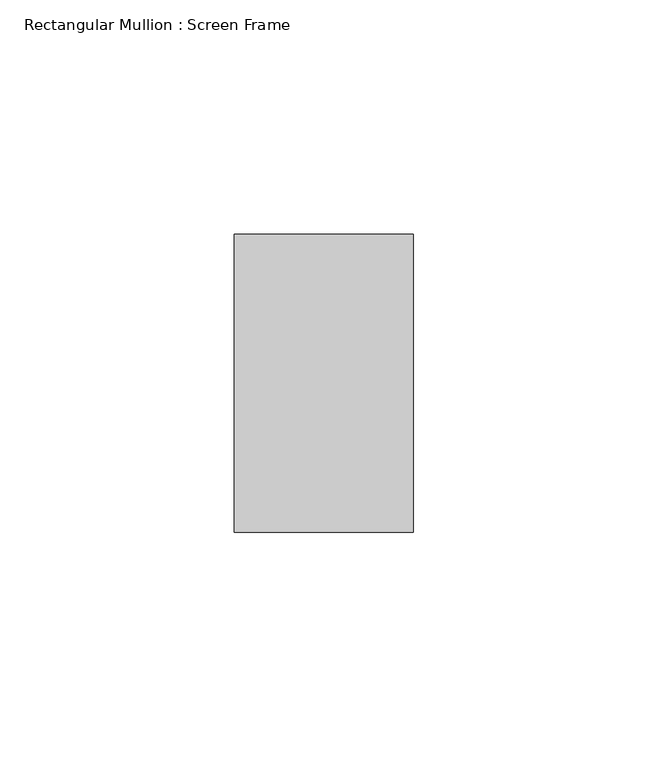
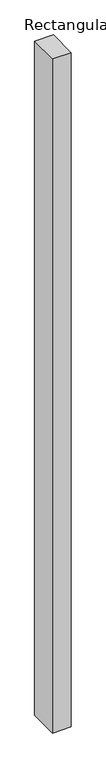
"""IFC4 building model written with IfcOpenShell, lengths in millimetres: member geometry, Rectangular Mullion : Screen Frame."""

from ifc_helpers import new_model, si_unit, frame, origin, place, context, project, spatial, polyline, outline, extrude, source, transform, mapped, element, save


def rectangular_mullion_screen_frame_f99cffb0(model_context):
    return source(origin(), model_context, "Body", "SweptSolid", [
        extrude(outline(polyline([(19.05, 31.75), (19.05, -31.75), (-19.05, -31.75), (-19.05, 31.75), (19.05, 31.75)])), frame((0.0, 0.0, -1460.5), z_axis=(0.0, 0.0, 1.0), x_axis=(1.0, 0.0, 0.0)), (0.0, 0.0, 1.0), 1460.5),
    ])


if __name__ == "__main__":
    model = new_model("IFC4")
    model_context = context("Model", 3, world=origin())
    ifc_project = project(units=[si_unit("LENGTHUNIT", "METRE", prefix="MILLI")], contexts=[model_context])
    site = spatial("IfcSite", under=ifc_project)
    building = spatial("IfcBuilding", under=site)
    placement = place(None, origin())
    rectangular_mullion_screen_frame_shape = rectangular_mullion_screen_frame_f99cffb0(model_context)
    element("IfcMember", 1, ObjectType="Rectangular Mullion : Screen Frame", at=placement, inside=building, context=model_context, shape_type="MappedRepresentation", body=[
        mapped(rectangular_mullion_screen_frame_shape, transform((0.0, 0.0, 0.0), x_axis=(1.0, 0.0, 0.0), y_axis=(0.0, 1.0, 0.0), z_axis=(0.0, 0.0, 1.0))),
    ])
    save(model, "model.ifc")
